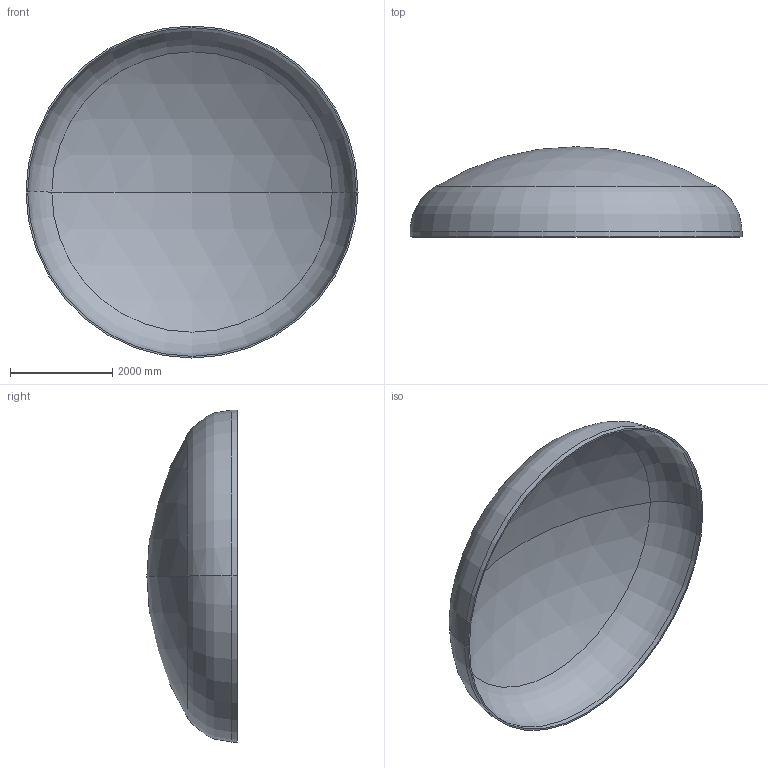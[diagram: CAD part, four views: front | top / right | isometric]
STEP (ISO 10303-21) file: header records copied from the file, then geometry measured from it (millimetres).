
FILE_DESCRIPTION (( 'STEP AP203' ), '1' );
FILE_NAME ('DIN 28013 Korbbogenform_-_Boden DIN 28013 - 6500 x 100 - I - s=33.step', '2016-07-04T10:41:18', ( '' ), ( '' ), 'SwSTEP 2.0', 'SolidWorks 2013', '' );
FILE_SCHEMA (( 'CONFIG_CONTROL_DESIGN' ));
Length unit declared in the file: millimetre
Products named in the file (1): DIN 28013 Korbbogenform_-_Boden DIN 28013 - 6500 x 100 - I - s=33
Bounding box: 6500 x 1765.8 x 6500 mm (x, y, z)
Volume: 1573274713.3 mm3; surface area: 96022676.1 mm2
Topology: 1 solids, 1 shells, 13 faces, 24 edges, 14 vertices
Faces by surface type: torus 4, cylinder 4, sphere 4, plane 1
Entity records: 407 total; most frequent: DIRECTION 72, CARTESIAN_POINT 52, ORIENTED_EDGE 48, AXIS2_PLACEMENT_3D 34, EDGE_CURVE 24, CIRCLE 20, VERTEX_POINT 14, EDGE_LOOP 14
